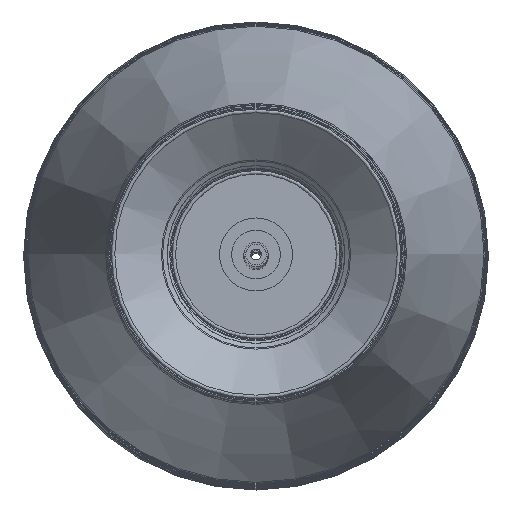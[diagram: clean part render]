
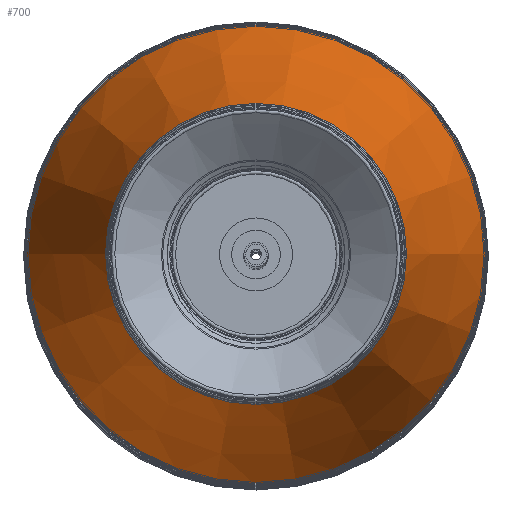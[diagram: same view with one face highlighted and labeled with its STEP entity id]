
A CAD part, top view. The second image highlights one B-rep face of the part: STEP entity #700.
In plain terms, the highlighted conical face has half-angle 18.435 degrees and reference radius 190 mm.
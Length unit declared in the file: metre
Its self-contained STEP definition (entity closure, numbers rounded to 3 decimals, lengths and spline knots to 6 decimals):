
#700 = ADVANCED_FACE( '', ( #810, #811 ), #812, .T. );
#810 = FACE_BOUND( '', #983, .T. );
#811 = FACE_OUTER_BOUND( '', #984, .T. );
#812 = CONICAL_SURFACE( '', #985, 0.19, 0.322 );
#983 = EDGE_LOOP( '', ( #1210 ) );
#984 = EDGE_LOOP( '', ( #1211 ) );
#985 = AXIS2_PLACEMENT_3D( '', #1212, #1213, #1214 );
#1210 = ORIENTED_EDGE( '', *, *, #1390, .T. );
#1211 = ORIENTED_EDGE( '', *, *, #1391, .F. );
#1212 = CARTESIAN_POINT( '', ( 0., 0., -0.072643 ) );
#1213 = DIRECTION( '', ( 0., 0., -1. ) );
#1214 = DIRECTION( '', ( -1., 0., 0. ) );
#1390 = EDGE_CURVE( '', #1474, #1474, #1475, .T. );
#1391 = EDGE_CURVE( '', #1476, #1476, #1477, .T. );
#1474 = VERTEX_POINT( '', #1590 );
#1475 = CIRCLE( '', #1591, 0.12 );
#1476 = VERTEX_POINT( '', #1592 );
#1477 = CIRCLE( '', #1593, 0.19 );
#1590 = CARTESIAN_POINT( '', ( -0.12, 0., 0.137357 ) );
#1591 = AXIS2_PLACEMENT_3D( '', #1880, #1881, #1882 );
#1592 = CARTESIAN_POINT( '', ( -0.19, 0., -0.072643 ) );
#1593 = AXIS2_PLACEMENT_3D( '', #1883, #1884, #1885 );
#1880 = CARTESIAN_POINT( '', ( 0., 0., 0.137357 ) );
#1881 = DIRECTION( '', ( 0., 0., -1. ) );
#1882 = DIRECTION( '', ( -1., 0., 0. ) );
#1883 = CARTESIAN_POINT( '', ( 0., 0., -0.072643 ) );
#1884 = DIRECTION( '', ( 0., 0., -1. ) );
#1885 = DIRECTION( '', ( -1., 0., 0. ) );
